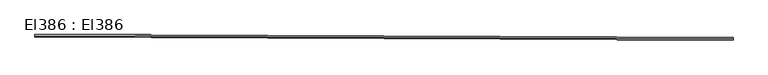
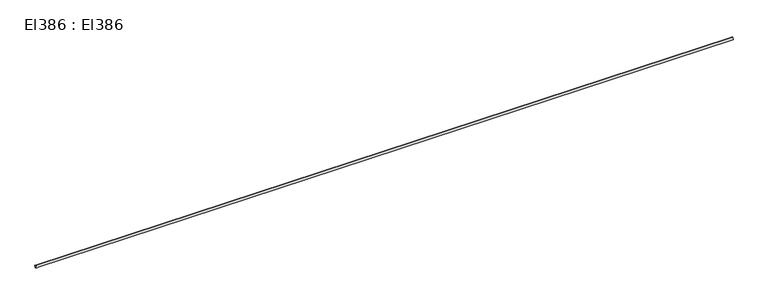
"""IFC4 building model written with IfcOpenShell, lengths in millimetres: cable carrier segment geometry, El386 : El386."""

from ifc_helpers import new_model, si_unit, point, frame, frame_2d, origin, place, context, project, spatial, circle_curve, trimmed, segment, composite_curve, outline, extrude, source, transform, mapped, element, save


def el386_el386_cffcdabf(model_context):
    return source(origin(), model_context, "Body", "SweptSolid", [
        extrude(outline(composite_curve([segment(trimmed(circle_curve(frame_2d((0.0, -9.5)), 9.5), [point((0.0, -19.0))], [point((0.0, 0.0))], False, "CARTESIAN"), True, "CONTINUOUS"), segment(trimmed(circle_curve(frame_2d((0.0, -9.5)), 9.5), [point((0.0, 0.0))], [point((0.0, -19.0))], False, "CARTESIAN"), True, "CONTINUOUS")], self_intersect=False)), frame((20467.3049864, 21396.8353766, 9.5), z_axis=(-0.9999914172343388, 0.004143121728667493, 0.0), x_axis=(-0.004143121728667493, -0.9999914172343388, 0.0)), (0.0, 0.0, 1.0), 5244.65),
    ])


if __name__ == "__main__":
    model = new_model("IFC4")
    model_context = context("Model", 3, world=origin())
    ifc_project = project(units=[si_unit("LENGTHUNIT", "METRE", prefix="MILLI")], contexts=[model_context])
    site = spatial("IfcSite", under=ifc_project)
    building = spatial("IfcBuilding", under=site)
    placement = place(None, origin())
    el386_el386_shape = el386_el386_cffcdabf(model_context)
    element("IfcCableCarrierSegment", 1, ObjectType="El386 : El386", at=placement, inside=building, context=model_context, shape_type="MappedRepresentation", body=[
        mapped(el386_el386_shape, transform((0.0, 0.0, 0.0), x_axis=(1.0, 0.0, 0.0), y_axis=(0.0, 1.0, 0.0), z_axis=(0.0, 0.0, 1.0))),
    ])
    save(model, "model.ifc")
